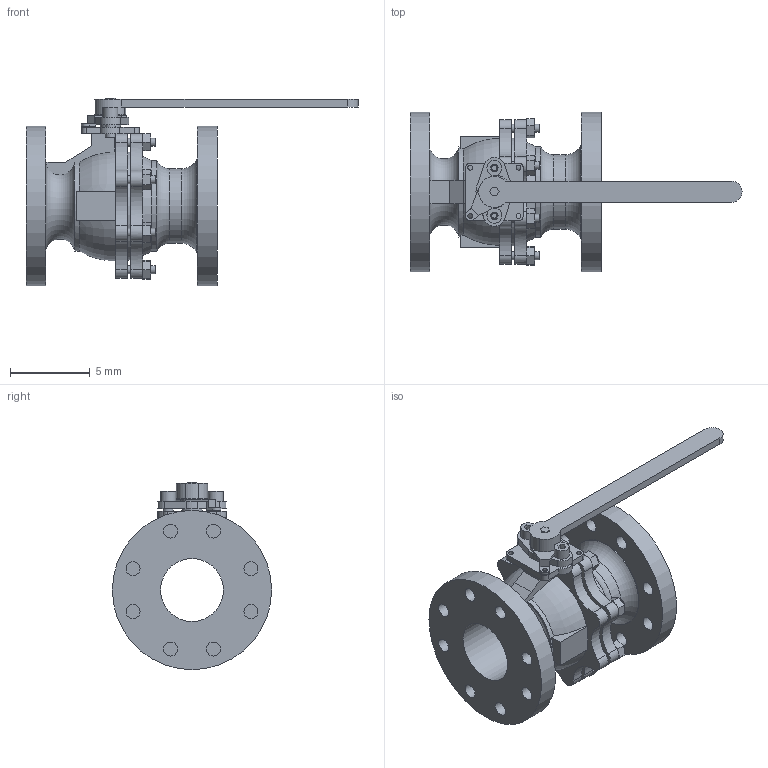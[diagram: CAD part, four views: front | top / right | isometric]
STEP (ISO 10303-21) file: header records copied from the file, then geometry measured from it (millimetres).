
FILE_DESCRIPTION(('Open CASCADE Model'),'2;1');
FILE_NAME('Open CASCADE Shape Model','2022-03-31T12:15:06',('Author'),( 'Open CASCADE'),'Open CASCADE STEP processor 7.3','Open CASCADE 7.3' ,'Unknown');
FILE_SCHEMA(('AUTOMOTIVE_DESIGN { 1 0 10303 214 1 1 1 1 }'));
Length unit declared in the file: millimetre
Products named in the file (3): Open CASCADE STEP translator 7.3 1; Open CASCADE STEP translator 7.3 1.1; Open CASCADE STEP translator 7.3 1.2
Assembly tree (2 placements, depth 2):
  Open CASCADE STEP translator 7.3 1
    Open CASCADE STEP translator 7.3 1.1
    Open CASCADE STEP translator 7.3 1.2
Bounding box: 20.85 x 10 x 11.77 mm (x, y, z)
Volume: 349.8 mm3; surface area: 947.9 mm2
Topology: 2 solids, 2 shells, 318 faces, 834 edges, 540 vertices
Faces by surface type: plane 199, cylinder 107, revolution 7, torus 3, cone 2
Full cylindrical faces by diameter (mm): 0.305 x5, 0.5 x16, 0.625 x4, 0.88 x16, 0.94 x2, 1.275 x1, 3.95 x1, 4.67 x1, 5.7 x1, 5.825 x1, 10 x2
Entity records: 22570 total; most frequent: CARTESIAN_POINT 5806, DIRECTION 3175, LINE 1772, VECTOR 1772, ORIENTED_EDGE 1668, PCURVE 1668, DEFINITIONAL_REPRESENTATION 1668, EDGE_CURVE 834
